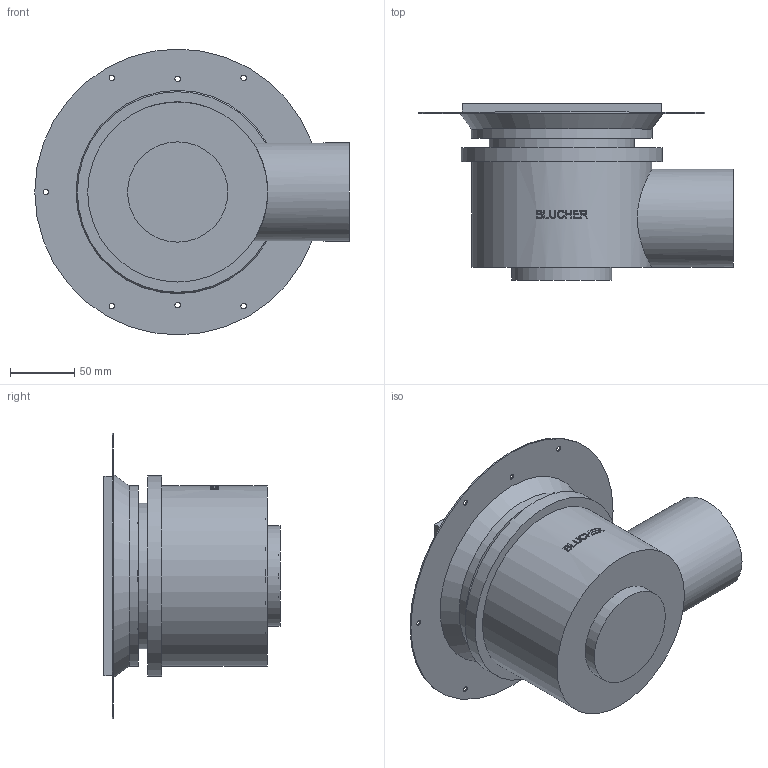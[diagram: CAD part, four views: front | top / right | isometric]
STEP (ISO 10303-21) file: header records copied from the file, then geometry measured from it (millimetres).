
FILE_DESCRIPTION((''),'2;1');
FILE_NAME('C:\Drawings\3D_CAD_Models\Blucher\Showers\BSS_Shower Drains with Square Top_Complete_091110\WebsiteFiles\3D\STEP\BSS-103.stp','2009-11-20T15:20:34',('hofmansp'),(''),'Autodesk Inventor 2010','Autodesk Inventor 2010','');
FILE_SCHEMA(('AUTOMOTIVE_DESIGN { 1 0 10303 214 1 1 1 1 }'));
Length unit declared in the file: inch
Products named in the file (1): BSS-103
Bounding box: 244.47 x 136.9 x 222.25 mm (x, y, z)
Volume: 328150.8 mm3; surface area: 320547.8 mm2
Topology: 1 solids, 1 shells, 357 faces, 1065 edges, 693 vertices
Faces by surface type: plane 287, bspline 42, cylinder 26, cone 2
Full cylindrical faces by diameter (mm): 74.2 x1, 76.008 x1, 76.2 x1, 78.008 x1, 109.5 x1, 111 x1, 111.5 x1, 113 x2, 138 x1, 138.6 x1, 140 x1, 140.6 x1, 155.575 x1, 156 x1, 222.25 x1
Entity records: 23012 total; most frequent: CARTESIAN_POINT 13241, ORIENTED_EDGE 2044, DIRECTION 1674, EDGE_CURVE 1022, VECTOR 772, LINE 772, VERTEX_POINT 676, EDGE_LOOP 504
